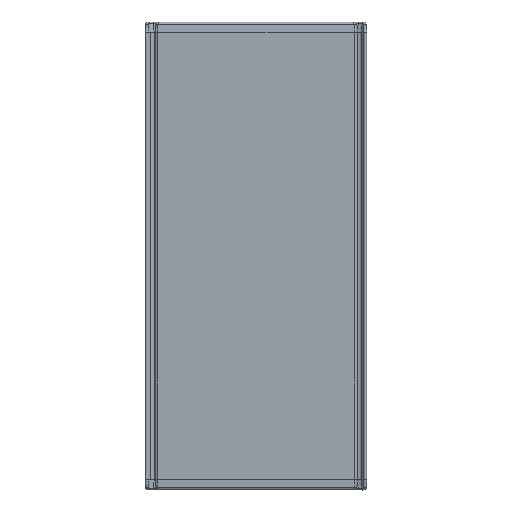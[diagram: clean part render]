
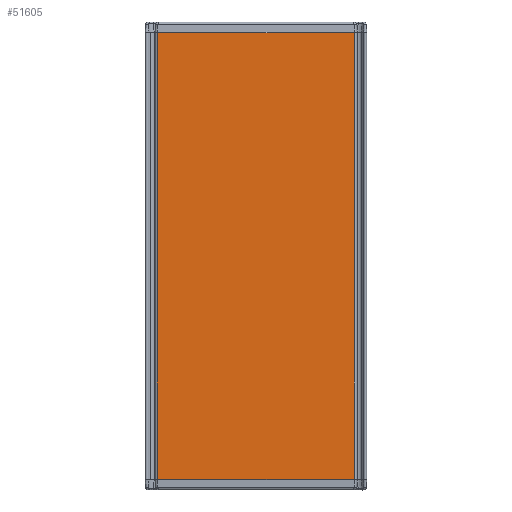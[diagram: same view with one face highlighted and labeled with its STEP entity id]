
A CAD part, top view. The second image highlights one B-rep face of the part: STEP entity #51605.
In plain terms, the highlighted planar face has unit normal (0, 0, 1).
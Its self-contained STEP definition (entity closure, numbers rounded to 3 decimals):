
#51300 = EDGE_CURVE('',#51301,#51303,#51305,.T.);
#51301 = VERTEX_POINT('',#51302);
#51302 = CARTESIAN_POINT('',(200.,-452.972,51.));
#51303 = VERTEX_POINT('',#51304);
#51304 = CARTESIAN_POINT('',(200.,452.972,51.));
#51305 = LINE('',#51306,#51307);
#51306 = CARTESIAN_POINT('',(200.,-452.972,51.));
#51307 = VECTOR('',#51308,1.);
#51308 = DIRECTION('',(0.,1.,0.));
#51367 = EDGE_CURVE('',#51368,#51303,#51370,.T.);
#51368 = VERTEX_POINT('',#51369);
#51369 = CARTESIAN_POINT('',(-200.,452.972,51.));
#51370 = LINE('',#51371,#51372);
#51371 = CARTESIAN_POINT('',(-200.,452.972,51.));
#51372 = VECTOR('',#51373,1.);
#51373 = DIRECTION('',(1.,0.,0.));
#51586 = VERTEX_POINT('',#51587);
#51587 = CARTESIAN_POINT('',(-200.,-452.972,51.));
#51594 = EDGE_CURVE('',#51586,#51368,#51595,.T.);
#51595 = LINE('',#51596,#51597);
#51596 = CARTESIAN_POINT('',(-200.,-452.972,51.));
#51597 = VECTOR('',#51598,1.);
#51598 = DIRECTION('',(0.,1.,0.));
#51605 = ADVANCED_FACE('',(#51606),#51617,.T.);
#51606 = FACE_BOUND('',#51607,.F.);
#51607 = EDGE_LOOP('',(#51608,#51609,#51610,#51616));
#51608 = ORIENTED_EDGE('',*,*,#51367,.T.);
#51609 = ORIENTED_EDGE('',*,*,#51300,.F.);
#51610 = ORIENTED_EDGE('',*,*,#51611,.T.);
#51611 = EDGE_CURVE('',#51301,#51586,#51612,.T.);
#51612 = LINE('',#51613,#51614);
#51613 = CARTESIAN_POINT('',(200.,-452.972,51.));
#51614 = VECTOR('',#51615,1.);
#51615 = DIRECTION('',(-1.,0.,0.));
#51616 = ORIENTED_EDGE('',*,*,#51594,.T.);
#51617 = PLANE('',#51618);
#51618 = AXIS2_PLACEMENT_3D('',#51619,#51620,#51621);
#51619 = CARTESIAN_POINT('',(-200.,-454.25,51.));
#51620 = DIRECTION('',(0.,0.,1.));
#51621 = DIRECTION('',(1.,0.,-0.));
